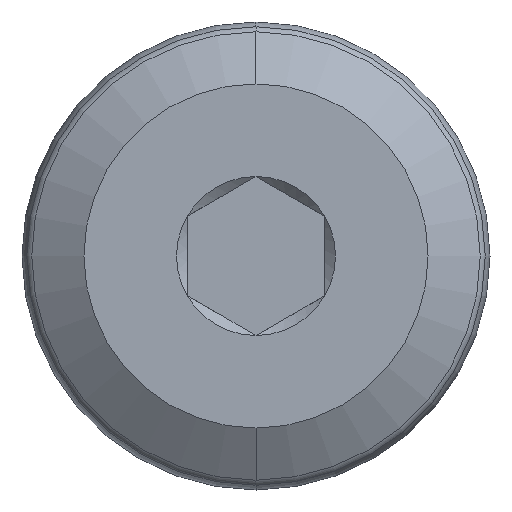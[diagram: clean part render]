
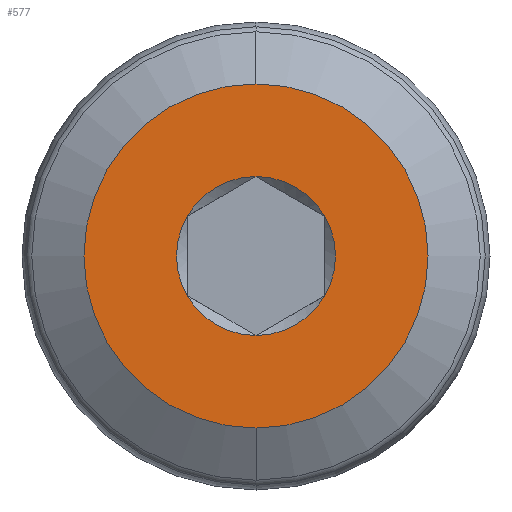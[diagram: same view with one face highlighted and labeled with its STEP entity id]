
A CAD part, left-side view. The second image highlights one B-rep face of the part: STEP entity #577.
In plain terms, the highlighted planar face has unit normal (-1, 0, 0).
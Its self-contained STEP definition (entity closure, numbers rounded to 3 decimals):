
#11 = CARTESIAN_POINT ( 'NONE',  ( 0., 0., 0. ) ) ;
#41 = FACE_BOUND ( 'NONE', #360, .T. ) ;
#53 = DIRECTION ( 'NONE',  ( 1., 0., 0. ) ) ;
#54 = CARTESIAN_POINT ( 'NONE',  ( 0., 0., 1.155 ) ) ;
#66 = CARTESIAN_POINT ( 'NONE',  ( 0., 0., -2.5 ) ) ;
#89 = VERTEX_POINT ( 'NONE', #54 ) ;
#92 = EDGE_CURVE ( 'NONE', #108, #754, #225, .T. ) ;
#108 = VERTEX_POINT ( 'NONE', #357 ) ;
#131 = CIRCLE ( 'NONE', #536, 1.155 ) ;
#144 = CIRCLE ( 'NONE', #738, 1.155 ) ;
#146 = EDGE_CURVE ( 'NONE', #754, #745, #686, .T. ) ;
#165 = CARTESIAN_POINT ( 'NONE',  ( 0., 0., 2.5 ) ) ;
#184 = CARTESIAN_POINT ( 'NONE',  ( 0., 0., 0. ) ) ;
#186 = AXIS2_PLACEMENT_3D ( 'NONE', #611, #308, #364 ) ;
#188 = DIRECTION ( 'NONE',  ( 1., 0., 0. ) ) ;
#197 = DIRECTION ( 'NONE',  ( 0., 0., -1. ) ) ;
#199 = AXIS2_PLACEMENT_3D ( 'NONE', #11, #188, #368 ) ;
#207 = CARTESIAN_POINT ( 'NONE',  ( 0., 0., -1.155 ) ) ;
#209 = DIRECTION ( 'NONE',  ( 0., 0., -1. ) ) ;
#213 = EDGE_LOOP ( 'NONE', ( #438, #588 ) ) ;
#225 = CIRCLE ( 'NONE', #606, 1.155 ) ;
#226 = PLANE ( 'NONE',  #186 ) ;
#233 = CIRCLE ( 'NONE', #199, 1.155 ) ;
#239 = CIRCLE ( 'NONE', #689, 2.5 ) ;
#293 = ORIENTED_EDGE ( 'NONE', *, *, #465, .T. ) ;
#297 = CARTESIAN_POINT ( 'NONE',  ( 0., 0., 0. ) ) ;
#308 = DIRECTION ( 'NONE',  ( -1., 0., 0. ) ) ;
#319 = EDGE_CURVE ( 'NONE', #707, #452, #239, .T. ) ;
#338 = DIRECTION ( 'NONE',  ( 0., 0., -1. ) ) ;
#348 = DIRECTION ( 'NONE',  ( 0., 0., -1. ) ) ;
#352 = CARTESIAN_POINT ( 'NONE',  ( 0., 1., 0.577 ) ) ;
#357 = CARTESIAN_POINT ( 'NONE',  ( 0., -1., 0.577 ) ) ;
#360 = EDGE_LOOP ( 'NONE', ( #694, #293, #676, #425, #657, #701 ) ) ;
#364 = DIRECTION ( 'NONE',  ( 0., 0., 1. ) ) ;
#368 = DIRECTION ( 'NONE',  ( 0., 0., -1. ) ) ;
#373 = CARTESIAN_POINT ( 'NONE',  ( 0., -1., -0.577 ) ) ;
#417 = CIRCLE ( 'NONE', #571, 1.155 ) ;
#425 = ORIENTED_EDGE ( 'NONE', *, *, #146, .T. ) ;
#438 = ORIENTED_EDGE ( 'NONE', *, *, #319, .F. ) ;
#442 = AXIS2_PLACEMENT_3D ( 'NONE', #184, #489, #197 ) ;
#450 = DIRECTION ( 'NONE',  ( 0., 0., -1. ) ) ;
#452 = VERTEX_POINT ( 'NONE', #165 ) ;
#459 = DIRECTION ( 'NONE',  ( 1., 0., 0. ) ) ;
#465 = EDGE_CURVE ( 'NONE', #89, #108, #144, .T. ) ;
#476 = DIRECTION ( 'NONE',  ( 0., 0., -1. ) ) ;
#477 = DIRECTION ( 'NONE',  ( 0., 0., -1. ) ) ;
#489 = DIRECTION ( 'NONE',  ( 1., 0., 0. ) ) ;
#517 = VERTEX_POINT ( 'NONE', #352 ) ;
#523 = DIRECTION ( 'NONE',  ( 1., 0., 0. ) ) ;
#525 = FACE_OUTER_BOUND ( 'NONE', #213, .T. ) ;
#536 = AXIS2_PLACEMENT_3D ( 'NONE', #581, #537, #338 ) ;
#537 = DIRECTION ( 'NONE',  ( 1., 0., 0. ) ) ;
#543 = EDGE_CURVE ( 'NONE', #775, #517, #131, .T. ) ;
#547 = EDGE_CURVE ( 'NONE', #452, #707, #753, .T. ) ;
#550 = AXIS2_PLACEMENT_3D ( 'NONE', #655, #712, #348 ) ;
#571 = AXIS2_PLACEMENT_3D ( 'NONE', #743, #751, #450 ) ;
#577 = ADVANCED_FACE ( 'NONE', ( #41, #525 ), #226, .T. ) ;
#581 = CARTESIAN_POINT ( 'NONE',  ( 0., 0., 0. ) ) ;
#588 = ORIENTED_EDGE ( 'NONE', *, *, #547, .F. ) ;
#606 = AXIS2_PLACEMENT_3D ( 'NONE', #297, #523, #477 ) ;
#611 = CARTESIAN_POINT ( 'NONE',  ( 0., 2.5, 0. ) ) ;
#639 = CARTESIAN_POINT ( 'NONE',  ( 0., 0., 0. ) ) ;
#655 = CARTESIAN_POINT ( 'NONE',  ( 0., 0., 0. ) ) ;
#657 = ORIENTED_EDGE ( 'NONE', *, *, #746, .T. ) ;
#661 = EDGE_CURVE ( 'NONE', #517, #89, #233, .T. ) ;
#676 = ORIENTED_EDGE ( 'NONE', *, *, #92, .T. ) ;
#686 = CIRCLE ( 'NONE', #442, 1.155 ) ;
#689 = AXIS2_PLACEMENT_3D ( 'NONE', #639, #459, #209 ) ;
#694 = ORIENTED_EDGE ( 'NONE', *, *, #661, .T. ) ;
#701 = ORIENTED_EDGE ( 'NONE', *, *, #543, .T. ) ;
#707 = VERTEX_POINT ( 'NONE', #66 ) ;
#712 = DIRECTION ( 'NONE',  ( 1., 0., 0. ) ) ;
#714 = CARTESIAN_POINT ( 'NONE',  ( 0., 0., 0. ) ) ;
#738 = AXIS2_PLACEMENT_3D ( 'NONE', #714, #53, #476 ) ;
#743 = CARTESIAN_POINT ( 'NONE',  ( 0., 0., 0. ) ) ;
#745 = VERTEX_POINT ( 'NONE', #207 ) ;
#746 = EDGE_CURVE ( 'NONE', #745, #775, #417, .T. ) ;
#747 = CARTESIAN_POINT ( 'NONE',  ( 0., 1., -0.577 ) ) ;
#751 = DIRECTION ( 'NONE',  ( 1., 0., 0. ) ) ;
#753 = CIRCLE ( 'NONE', #550, 2.5 ) ;
#754 = VERTEX_POINT ( 'NONE', #373 ) ;
#775 = VERTEX_POINT ( 'NONE', #747 ) ;
